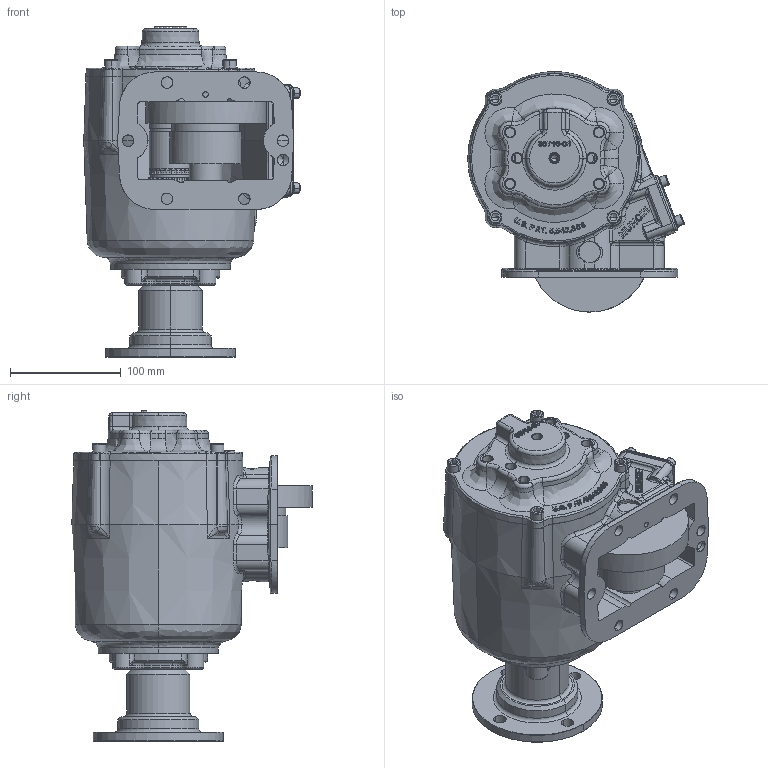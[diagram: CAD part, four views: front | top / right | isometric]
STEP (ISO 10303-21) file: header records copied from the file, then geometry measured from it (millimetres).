
FILE_DESCRIPTION (( 'STEP AP203' ), '1' );
FILE_NAME ('CS6S-A67XX-H1CX.STEP', '2023-04-25T14:34:44', ( '' ), ( '' ), 'SwSTEP 2.0', 'SolidWorks 2021', '' );
FILE_SCHEMA (( 'CONFIG_CONTROL_DESIGN' ));
Length unit declared in the file: inch
Products named in the file (10): 15TA5220_Config1; 06T37372_06T37372; 14T37357; 21T20092; CS6S-A67XX-H1CX; CS6S-XXXXX-X1XX; 10T21017; 15T41683; 11T37790; 19T38266
Assembly tree (9 placements, depth 3):
  CS6S-A67XX-H1CX
    CS6S-XXXXX-X1XX
    06T37372_06T37372
    15TA5220_Config1
      15T41683
      11T37790
    14T37357
    21T20092
    19T38266
    10T21017
Bounding box: 195.33 x 216.75 x 297.95 mm (x, y, z)
Volume: 1885267.4 mm3; surface area: 472537.4 mm2
Topology: 17 solids, 17 shells, 2823 faces, 7398 edges, 4644 vertices
Faces by surface type: bspline 928, plane 697, cylinder 601, cone 336, torus 241, sphere 20
Entity records: 226390 total; most frequent: CARTESIAN_POINT 165255, ORIENTED_EDGE 14572, DIRECTION 9043, EDGE_CURVE 7286, VERTEX_POINT 4617, B_SPLINE_CURVE_WITH_KNOTS 3565, AXIS2_PLACEMENT_3D 3427, EDGE_LOOP 3049
